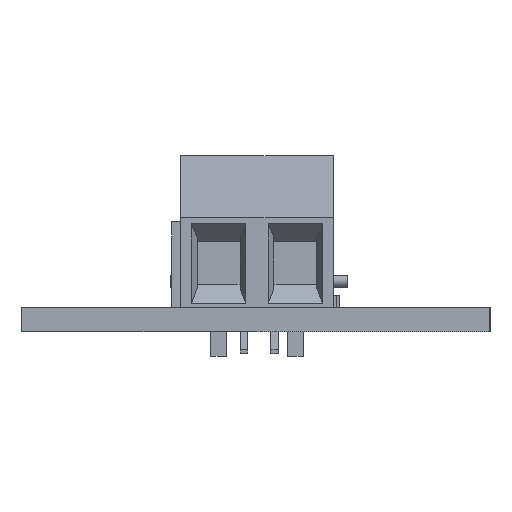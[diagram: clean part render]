
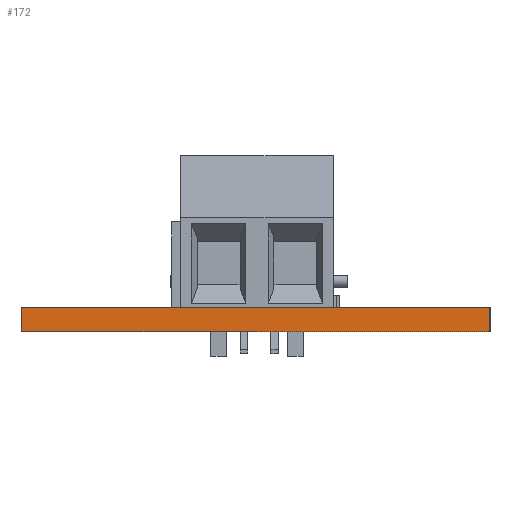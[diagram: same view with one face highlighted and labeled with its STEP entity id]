
A CAD part, left-side view. The second image highlights one B-rep face of the part: STEP entity #172.
In plain terms, the highlighted planar face has unit normal (-1, 0, 0).
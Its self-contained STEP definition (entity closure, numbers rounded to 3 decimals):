
#67 = PLANE('',#68);
#68 = AXIS2_PLACEMENT_3D('',#69,#70,#71);
#69 = CARTESIAN_POINT('',(35.56,0.,0.));
#70 = DIRECTION('',(0.,-1.,0.));
#71 = DIRECTION('',(-1.,0.,0.));
#92 = VERTEX_POINT('',#93);
#93 = CARTESIAN_POINT('',(0.,0.,1.575));
#107 = PLANE('',#108);
#108 = AXIS2_PLACEMENT_3D('',#109,#110,#111);
#109 = CARTESIAN_POINT('',(35.56,0.,1.575));
#110 = DIRECTION('',(0.,0.,1.));
#111 = DIRECTION('',(1.,0.,0.));
#119 = EDGE_CURVE('',#120,#92,#122,.T.);
#120 = VERTEX_POINT('',#121);
#121 = CARTESIAN_POINT('',(0.,0.,0.));
#122 = SURFACE_CURVE('',#123,(#127,#134),.PCURVE_S1.);
#123 = LINE('',#124,#125);
#124 = CARTESIAN_POINT('',(0.,0.,0.));
#125 = VECTOR('',#126,1.);
#126 = DIRECTION('',(0.,0.,1.));
#127 = PCURVE('',#67,#128);
#128 = DEFINITIONAL_REPRESENTATION('',(#129),#133);
#129 = LINE('',#130,#131);
#130 = CARTESIAN_POINT('',(35.56,0.));
#131 = VECTOR('',#132,1.);
#132 = DIRECTION('',(0.,-1.));
#133 = ( GEOMETRIC_REPRESENTATION_CONTEXT(2) 
PARAMETRIC_REPRESENTATION_CONTEXT() REPRESENTATION_CONTEXT('2D SPACE',''
  ) );
#134 = PCURVE('',#135,#140);
#135 = PLANE('',#136);
#136 = AXIS2_PLACEMENT_3D('',#137,#138,#139);
#137 = CARTESIAN_POINT('',(0.,0.,0.));
#138 = DIRECTION('',(-1.,0.,0.));
#139 = DIRECTION('',(0.,1.,0.));
#140 = DEFINITIONAL_REPRESENTATION('',(#141),#145);
#141 = LINE('',#142,#143);
#142 = CARTESIAN_POINT('',(0.,0.));
#143 = VECTOR('',#144,1.);
#144 = DIRECTION('',(0.,-1.));
#145 = ( GEOMETRIC_REPRESENTATION_CONTEXT(2) 
PARAMETRIC_REPRESENTATION_CONTEXT() REPRESENTATION_CONTEXT('2D SPACE',''
  ) );
#161 = PLANE('',#162);
#162 = AXIS2_PLACEMENT_3D('',#163,#164,#165);
#163 = CARTESIAN_POINT('',(35.56,0.,0.));
#164 = DIRECTION('',(0.,0.,1.));
#165 = DIRECTION('',(1.,0.,0.));
#172 = ADVANCED_FACE('',(#173),#135,.T.);
#173 = FACE_BOUND('',#174,.T.);
#174 = EDGE_LOOP('',(#175,#176,#199,#227));
#175 = ORIENTED_EDGE('',*,*,#119,.T.);
#176 = ORIENTED_EDGE('',*,*,#177,.T.);
#177 = EDGE_CURVE('',#92,#178,#180,.T.);
#178 = VERTEX_POINT('',#179);
#179 = CARTESIAN_POINT('',(0.,30.48,1.575));
#180 = SURFACE_CURVE('',#181,(#185,#192),.PCURVE_S1.);
#181 = LINE('',#182,#183);
#182 = CARTESIAN_POINT('',(0.,0.,1.575));
#183 = VECTOR('',#184,1.);
#184 = DIRECTION('',(0.,1.,0.));
#185 = PCURVE('',#135,#186);
#186 = DEFINITIONAL_REPRESENTATION('',(#187),#191);
#187 = LINE('',#188,#189);
#188 = CARTESIAN_POINT('',(0.,-1.575));
#189 = VECTOR('',#190,1.);
#190 = DIRECTION('',(1.,0.));
#191 = ( GEOMETRIC_REPRESENTATION_CONTEXT(2) 
PARAMETRIC_REPRESENTATION_CONTEXT() REPRESENTATION_CONTEXT('2D SPACE',''
  ) );
#192 = PCURVE('',#107,#193);
#193 = DEFINITIONAL_REPRESENTATION('',(#194),#198);
#194 = LINE('',#195,#196);
#195 = CARTESIAN_POINT('',(-35.56,0.));
#196 = VECTOR('',#197,1.);
#197 = DIRECTION('',(0.,1.));
#198 = ( GEOMETRIC_REPRESENTATION_CONTEXT(2) 
PARAMETRIC_REPRESENTATION_CONTEXT() REPRESENTATION_CONTEXT('2D SPACE',''
  ) );
#199 = ORIENTED_EDGE('',*,*,#200,.F.);
#200 = EDGE_CURVE('',#201,#178,#203,.T.);
#201 = VERTEX_POINT('',#202);
#202 = CARTESIAN_POINT('',(0.,30.48,0.));
#203 = SURFACE_CURVE('',#204,(#208,#215),.PCURVE_S1.);
#204 = LINE('',#205,#206);
#205 = CARTESIAN_POINT('',(0.,30.48,0.));
#206 = VECTOR('',#207,1.);
#207 = DIRECTION('',(0.,0.,1.));
#208 = PCURVE('',#135,#209);
#209 = DEFINITIONAL_REPRESENTATION('',(#210),#214);
#210 = LINE('',#211,#212);
#211 = CARTESIAN_POINT('',(30.48,0.));
#212 = VECTOR('',#213,1.);
#213 = DIRECTION('',(0.,-1.));
#214 = ( GEOMETRIC_REPRESENTATION_CONTEXT(2) 
PARAMETRIC_REPRESENTATION_CONTEXT() REPRESENTATION_CONTEXT('2D SPACE',''
  ) );
#215 = PCURVE('',#216,#221);
#216 = PLANE('',#217);
#217 = AXIS2_PLACEMENT_3D('',#218,#219,#220);
#218 = CARTESIAN_POINT('',(0.,30.48,0.));
#219 = DIRECTION('',(0.,1.,0.));
#220 = DIRECTION('',(1.,0.,0.));
#221 = DEFINITIONAL_REPRESENTATION('',(#222),#226);
#222 = LINE('',#223,#224);
#223 = CARTESIAN_POINT('',(0.,0.));
#224 = VECTOR('',#225,1.);
#225 = DIRECTION('',(0.,-1.));
#226 = ( GEOMETRIC_REPRESENTATION_CONTEXT(2) 
PARAMETRIC_REPRESENTATION_CONTEXT() REPRESENTATION_CONTEXT('2D SPACE',''
  ) );
#227 = ORIENTED_EDGE('',*,*,#228,.F.);
#228 = EDGE_CURVE('',#120,#201,#229,.T.);
#229 = SURFACE_CURVE('',#230,(#234,#241),.PCURVE_S1.);
#230 = LINE('',#231,#232);
#231 = CARTESIAN_POINT('',(0.,0.,0.));
#232 = VECTOR('',#233,1.);
#233 = DIRECTION('',(0.,1.,0.));
#234 = PCURVE('',#135,#235);
#235 = DEFINITIONAL_REPRESENTATION('',(#236),#240);
#236 = LINE('',#237,#238);
#237 = CARTESIAN_POINT('',(0.,0.));
#238 = VECTOR('',#239,1.);
#239 = DIRECTION('',(1.,0.));
#240 = ( GEOMETRIC_REPRESENTATION_CONTEXT(2) 
PARAMETRIC_REPRESENTATION_CONTEXT() REPRESENTATION_CONTEXT('2D SPACE',''
  ) );
#241 = PCURVE('',#161,#242);
#242 = DEFINITIONAL_REPRESENTATION('',(#243),#247);
#243 = LINE('',#244,#245);
#244 = CARTESIAN_POINT('',(-35.56,0.));
#245 = VECTOR('',#246,1.);
#246 = DIRECTION('',(0.,1.));
#247 = ( GEOMETRIC_REPRESENTATION_CONTEXT(2) 
PARAMETRIC_REPRESENTATION_CONTEXT() REPRESENTATION_CONTEXT('2D SPACE',''
  ) );
